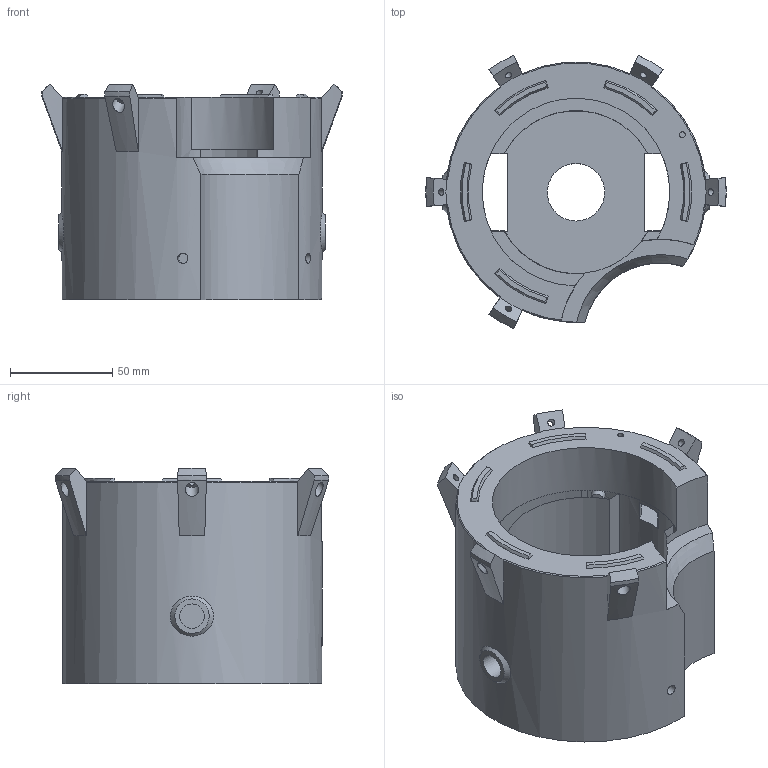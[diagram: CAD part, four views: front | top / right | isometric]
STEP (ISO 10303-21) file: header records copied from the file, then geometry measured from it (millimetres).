
FILE_DESCRIPTION(/* description */ (''),/* implementation_level */ '2;1');
FILE_NAME(/* name */ 'Clutch Housing.stp',/* time_stamp */ '2026-07-31T14:07:18-06:00',/* author */ (''),/* organization */ (''),/* preprocessor_version */ 'ST-DEVELOPER v18.102',/* originating_system */ 'SIEMENS PLM Software NX 2027',/* authorisation */ '');
FILE_SCHEMA (('AUTOMOTIVE_DESIGN { 1 0 10303 214 3 1 1 1 }'));
Length unit declared in the file: inch
Products named in the file (1): Clutch Housing
Bounding box: 146.6 x 133.41 x 105.05 mm (x, y, z)
Volume: 641554 mm3; surface area: 93930.1 mm2
Topology: 6 solids, 6 shells, 173 faces, 416 edges, 273 vertices
Faces by surface type: plane 79, bspline 53, cylinder 34, cone 7
Full cylindrical faces by diameter (mm): 2.857 x2, 3.35 x5, 5 x7, 6.382 x5, 6.568 x1, 11.93 x2, 28.068 x1, 51.176 x1
Entity records: 8067 total; most frequent: CARTESIAN_POINT 4600, ORIENTED_EDGE 750, DIRECTION 504, EDGE_CURVE 375, VERTEX_POINT 259, EDGE_LOOP 238, AXIS2_PLACEMENT_3D 197, B_SPLINE_CURVE_WITH_KNOTS 189
